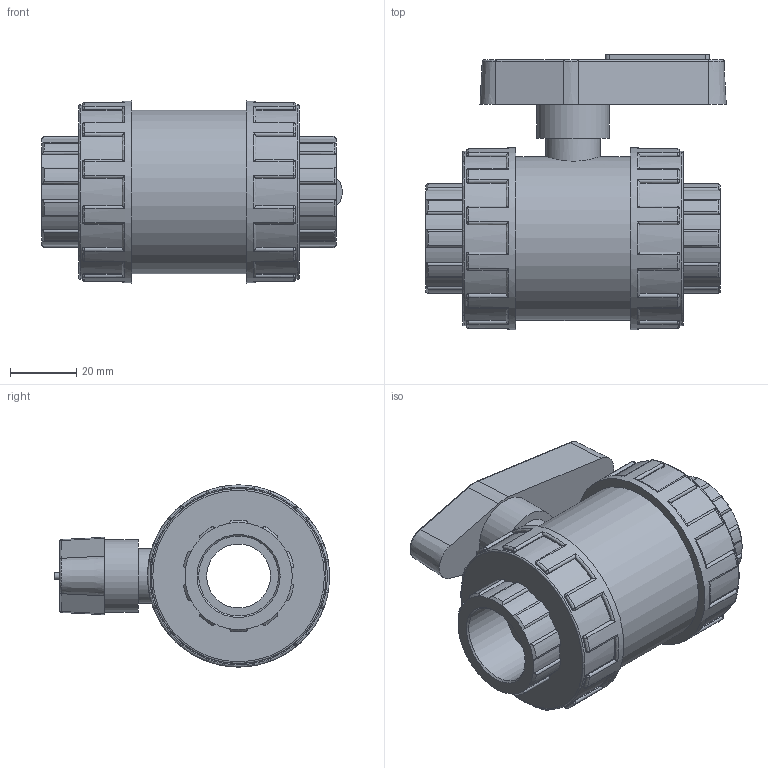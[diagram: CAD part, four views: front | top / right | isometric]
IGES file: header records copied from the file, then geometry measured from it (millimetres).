
Global section: file name: 11151007.ipt; native system: Autodesk Inventor 2015; preprocessor: unknown; author: KIM; date: 20171207.170228; units: millimetre
Bounding box: 90.79 x 83.12 x 55 mm (x, y, z)
Volume: 148653.6 mm3; surface area: 29715.5 mm2
Topology: 1 solids, 1 shells, 434 faces, 1085 edges, 662 vertices
Faces by surface type: cylinder 189, plane 114, revolution 59, sphere 48, cone 24
Full cylindrical faces by diameter (mm): 16.5 x1, 22 x1, 49.5 x1, 52.8 x2, 55 x2
